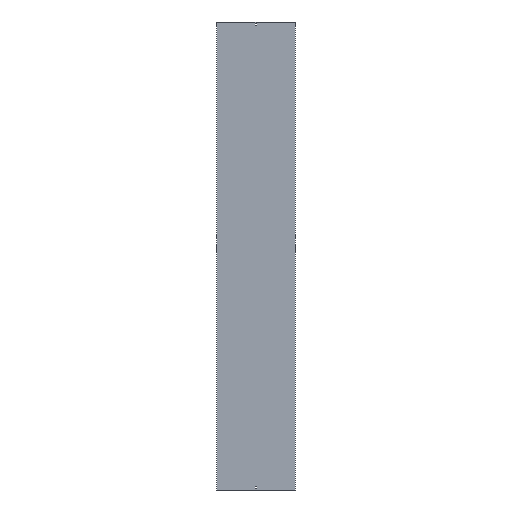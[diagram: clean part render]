
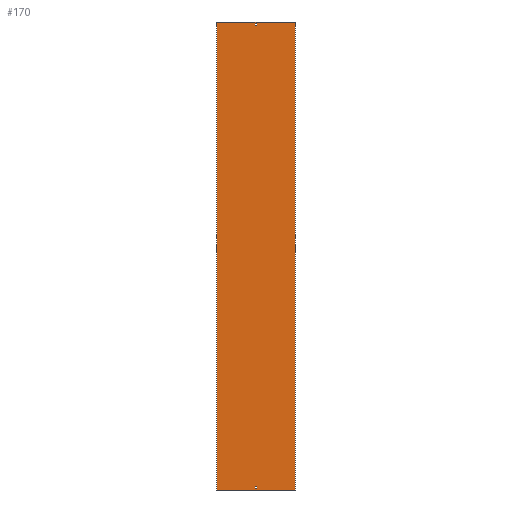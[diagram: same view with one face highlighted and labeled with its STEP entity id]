
A CAD part, front view. The second image highlights one B-rep face of the part: STEP entity #170.
In plain terms, the highlighted planar face has unit normal (0, -1, 0).
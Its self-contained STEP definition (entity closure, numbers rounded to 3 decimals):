
#4 = ORIENTED_EDGE ( 'NONE', *, *, #347, .T. ) ;
#7 = CARTESIAN_POINT ( 'NONE',  ( 3.25, 0., -1488. ) ) ;
#48 = ORIENTED_EDGE ( 'NONE', *, *, #305, .F. ) ;
#68 = CARTESIAN_POINT ( 'NONE',  ( -252., 0., -1500. ) ) ;
#71 = ORIENTED_EDGE ( 'NONE', *, *, #756, .T. ) ;
#80 = VECTOR ( 'NONE', #820, 1000. ) ;
#81 = VECTOR ( 'NONE', #451, 1000. ) ;
#92 = CARTESIAN_POINT ( 'NONE',  ( 3.25, 0., 1488. ) ) ;
#118 = LINE ( 'NONE', #881, #81 ) ;
#125 = DIRECTION ( 'NONE',  ( 1., 0., 0. ) ) ;
#131 = EDGE_CURVE ( 'NONE', #172, #493, #1096, .T. ) ;
#139 = AXIS2_PLACEMENT_3D ( 'NONE', #158, #843, #350 ) ;
#150 = LINE ( 'NONE', #590, #937 ) ;
#158 = CARTESIAN_POINT ( 'NONE',  ( -252., 0., 1500. ) ) ;
#160 = DIRECTION ( 'NONE',  ( 1., 0., 0. ) ) ;
#170 = ADVANCED_FACE ( 'NONE', ( #330, #594, #849 ), #250, .F. ) ;
#172 = VERTEX_POINT ( 'NONE', #68 ) ;
#173 = DIRECTION ( 'NONE',  ( 0., 0., -1. ) ) ;
#177 = VECTOR ( 'NONE', #125, 1000. ) ;
#186 = DIRECTION ( 'NONE',  ( 1., 0., 0. ) ) ;
#190 = ORIENTED_EDGE ( 'NONE', *, *, #131, .T. ) ;
#199 = VERTEX_POINT ( 'NONE', #242 ) ;
#216 = VERTEX_POINT ( 'NONE', #687 ) ;
#230 = VERTEX_POINT ( 'NONE', #940 ) ;
#242 = CARTESIAN_POINT ( 'NONE',  ( 3.25, 0., 1479. ) ) ;
#245 = VECTOR ( 'NONE', #296, 1000. ) ;
#250 = PLANE ( 'NONE',  #139 ) ;
#255 = EDGE_CURVE ( 'NONE', #419, #230, #612, .T. ) ;
#271 = EDGE_CURVE ( 'NONE', #421, #359, #541, .T. ) ;
#292 = CARTESIAN_POINT ( 'NONE',  ( 3.25, 0., -1479. ) ) ;
#296 = DIRECTION ( 'NONE',  ( -1., 0., 0. ) ) ;
#298 = ORIENTED_EDGE ( 'NONE', *, *, #500, .F. ) ;
#299 = VERTEX_POINT ( 'NONE', #292 ) ;
#305 = EDGE_CURVE ( 'NONE', #216, #1000, #118, .T. ) ;
#327 = LINE ( 'NONE', #676, #976 ) ;
#330 = FACE_OUTER_BOUND ( 'NONE', #695, .T. ) ;
#347 = EDGE_CURVE ( 'NONE', #368, #421, #460, .T. ) ;
#350 = DIRECTION ( 'NONE',  ( -1., 0., 0. ) ) ;
#359 = VERTEX_POINT ( 'NONE', #378 ) ;
#368 = VERTEX_POINT ( 'NONE', #7 ) ;
#378 = CARTESIAN_POINT ( 'NONE',  ( -3.25, 0., -1479. ) ) ;
#391 = LINE ( 'NONE', #1086, #177 ) ;
#419 = VERTEX_POINT ( 'NONE', #767 ) ;
#421 = VERTEX_POINT ( 'NONE', #819 ) ;
#451 = DIRECTION ( 'NONE',  ( -1., 0., 0. ) ) ;
#460 = LINE ( 'NONE', #731, #245 ) ;
#488 = CARTESIAN_POINT ( 'NONE',  ( -252., 0., -1500. ) ) ;
#493 = VERTEX_POINT ( 'NONE', #879 ) ;
#500 = EDGE_CURVE ( 'NONE', #1000, #996, #528, .T. ) ;
#504 = ORIENTED_EDGE ( 'NONE', *, *, #271, .T. ) ;
#510 = LINE ( 'NONE', #616, #1068 ) ;
#528 = LINE ( 'NONE', #1134, #920 ) ;
#536 = DIRECTION ( 'NONE',  ( 0., 0., 1. ) ) ;
#540 = EDGE_CURVE ( 'NONE', #299, #368, #510, .T. ) ;
#541 = LINE ( 'NONE', #874, #861 ) ;
#590 = CARTESIAN_POINT ( 'NONE',  ( -3.25, 0., 1479. ) ) ;
#594 = FACE_BOUND ( 'NONE', #620, .T. ) ;
#612 = LINE ( 'NONE', #963, #900 ) ;
#616 = CARTESIAN_POINT ( 'NONE',  ( 3.25, 0., -1488. ) ) ;
#620 = EDGE_LOOP ( 'NONE', ( #732, #298, #48, #771 ) ) ;
#654 = DIRECTION ( 'NONE',  ( 0., 0., -1. ) ) ;
#664 = VECTOR ( 'NONE', #173, 1000. ) ;
#666 = EDGE_LOOP ( 'NONE', ( #504, #71, #1075, #4 ) ) ;
#676 = CARTESIAN_POINT ( 'NONE',  ( -252., 0., 1500. ) ) ;
#687 = CARTESIAN_POINT ( 'NONE',  ( 3.25, 0., 1488. ) ) ;
#695 = EDGE_LOOP ( 'NONE', ( #190, #1069, #715, #747 ) ) ;
#703 = LINE ( 'NONE', #953, #664 ) ;
#712 = DIRECTION ( 'NONE',  ( 0., 0., -1. ) ) ;
#715 = ORIENTED_EDGE ( 'NONE', *, *, #255, .F. ) ;
#731 = CARTESIAN_POINT ( 'NONE',  ( -3.25, 0., -1488. ) ) ;
#732 = ORIENTED_EDGE ( 'NONE', *, *, #847, .F. ) ;
#747 = ORIENTED_EDGE ( 'NONE', *, *, #839, .T. ) ;
#756 = EDGE_CURVE ( 'NONE', #359, #299, #391, .T. ) ;
#767 = CARTESIAN_POINT ( 'NONE',  ( -252., 0., 1500. ) ) ;
#771 = ORIENTED_EDGE ( 'NONE', *, *, #909, .F. ) ;
#783 = CARTESIAN_POINT ( 'NONE',  ( -3.25, 0., 1488. ) ) ;
#819 = CARTESIAN_POINT ( 'NONE',  ( -3.25, 0., -1488. ) ) ;
#820 = DIRECTION ( 'NONE',  ( 1., 0., 0. ) ) ;
#839 = EDGE_CURVE ( 'NONE', #419, #172, #327, .T. ) ;
#843 = DIRECTION ( 'NONE',  ( 0., 1., 0. ) ) ;
#847 = EDGE_CURVE ( 'NONE', #996, #199, #150, .T. ) ;
#849 = FACE_BOUND ( 'NONE', #666, .T. ) ;
#858 = DIRECTION ( 'NONE',  ( 0., 0., 1. ) ) ;
#861 = VECTOR ( 'NONE', #536, 1000. ) ;
#874 = CARTESIAN_POINT ( 'NONE',  ( -3.25, 0., -1488. ) ) ;
#879 = CARTESIAN_POINT ( 'NONE',  ( 252., 0., -1500. ) ) ;
#881 = CARTESIAN_POINT ( 'NONE',  ( -3.25, 0., 1488. ) ) ;
#900 = VECTOR ( 'NONE', #186, 1000. ) ;
#909 = EDGE_CURVE ( 'NONE', #199, #216, #1052, .T. ) ;
#920 = VECTOR ( 'NONE', #1040, 1000. ) ;
#937 = VECTOR ( 'NONE', #160, 1000. ) ;
#940 = CARTESIAN_POINT ( 'NONE',  ( 252., 0., 1500. ) ) ;
#953 = CARTESIAN_POINT ( 'NONE',  ( 252., 0., 1500. ) ) ;
#960 = CARTESIAN_POINT ( 'NONE',  ( -3.25, 0., 1479. ) ) ;
#963 = CARTESIAN_POINT ( 'NONE',  ( -252., 0., 1500. ) ) ;
#976 = VECTOR ( 'NONE', #654, 1000. ) ;
#990 = EDGE_CURVE ( 'NONE', #230, #493, #703, .T. ) ;
#996 = VERTEX_POINT ( 'NONE', #960 ) ;
#1000 = VERTEX_POINT ( 'NONE', #783 ) ;
#1040 = DIRECTION ( 'NONE',  ( 0., 0., -1. ) ) ;
#1052 = LINE ( 'NONE', #92, #1071 ) ;
#1068 = VECTOR ( 'NONE', #712, 1000. ) ;
#1069 = ORIENTED_EDGE ( 'NONE', *, *, #990, .F. ) ;
#1071 = VECTOR ( 'NONE', #858, 1000. ) ;
#1075 = ORIENTED_EDGE ( 'NONE', *, *, #540, .T. ) ;
#1086 = CARTESIAN_POINT ( 'NONE',  ( -3.25, 0., -1479. ) ) ;
#1096 = LINE ( 'NONE', #488, #80 ) ;
#1134 = CARTESIAN_POINT ( 'NONE',  ( -3.25, 0., 1488. ) ) ;
